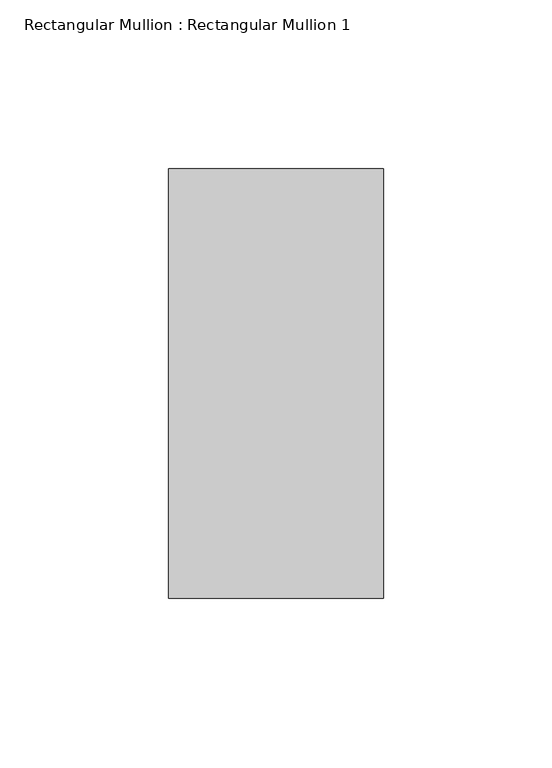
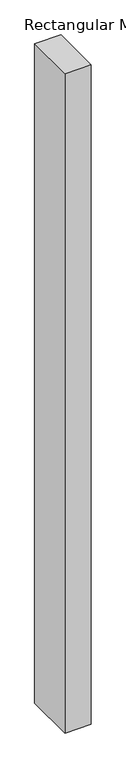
"""IFC4 building model written with IfcOpenShell, lengths in millimetres: member geometry, Rectangular Mullion : Rectangular Mullion 1."""

from ifc_helpers import new_model, si_unit, frame, origin, place, context, project, spatial, polyline, outline, extrude, source, transform, mapped, element, save


def rectangular_mullion_rectangular_mullion_1_d6081a99(model_context):
    return source(origin(), model_context, "Body", "SweptSolid", [
        extrude(outline(polyline([(0.0, 63.5), (0.0, -63.5), (-63.5, -63.5), (-63.5, 63.5), (0.0, 63.5)])), frame((0.0, 0.0, -1694.7500002), z_axis=(0.0, 0.0, 1.0), x_axis=(1.0, 0.0, 0.0)), (0.0, 0.0, 1.0), 1694.7500002),
    ])


if __name__ == "__main__":
    model = new_model("IFC4")
    model_context = context("Model", 3, world=origin())
    ifc_project = project(units=[si_unit("LENGTHUNIT", "METRE", prefix="MILLI")], contexts=[model_context])
    site = spatial("IfcSite", under=ifc_project)
    building = spatial("IfcBuilding", under=site)
    placement = place(None, origin())
    rectangular_mullion_rectangular_mullion_1_shape = rectangular_mullion_rectangular_mullion_1_d6081a99(model_context)
    element("IfcMember", 1, ObjectType="Rectangular Mullion : Rectangular Mullion 1", at=placement, inside=building, context=model_context, shape_type="MappedRepresentation", body=[
        mapped(rectangular_mullion_rectangular_mullion_1_shape, transform((0.0, 0.0, 0.0), x_axis=(1.0, 0.0, 0.0), y_axis=(0.0, 1.0, 0.0), z_axis=(0.0, 0.0, 1.0))),
    ])
    save(model, "model.ifc")
